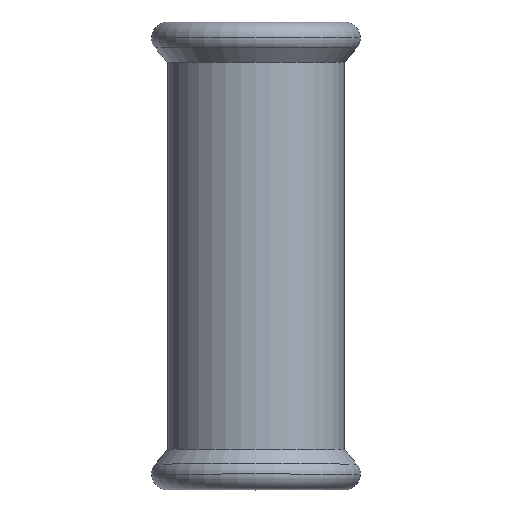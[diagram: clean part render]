
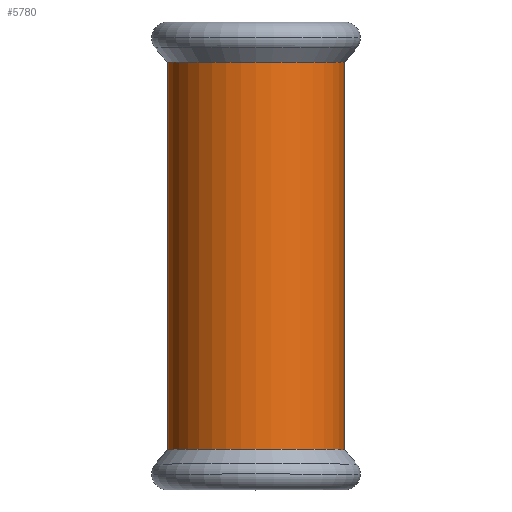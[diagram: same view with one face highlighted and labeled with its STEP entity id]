
A CAD part, top view. The second image highlights one B-rep face of the part: STEP entity #5780.
In plain terms, the highlighted cylindrical face has radius 22.7 mm (diameter 45.4 mm), a partial arc.
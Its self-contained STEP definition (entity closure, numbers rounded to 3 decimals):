
#2890=CARTESIAN_POINT('',(-27.454,219.789,0.));
#2900=VERTEX_POINT('',#2890);
#3080=CARTESIAN_POINT('',(-72.854,219.789,
0.));
#3090=VERTEX_POINT('',#3080);
#3120=CARTESIAN_POINT('',(-50.154,219.789,0.));
#3130=DIRECTION('',(0.,1.,0.));
#3140=DIRECTION('',(-1.,0.,0.));
#3150=AXIS2_PLACEMENT_3D('',#3120,#3130,#3140);
#3160=CIRCLE('',#3150,22.7);
#3220=CARTESIAN_POINT('',(-50.154,209.387,0.));
#3230=DIRECTION('',(0.,-1.,0.));
#3240=DIRECTION('',(-1.,0.,0.));
#3250=AXIS2_PLACEMENT_3D('',#3220,#3230,#3240);
#3260=CYLINDRICAL_SURFACE('',#3250,22.7);
#3270=CARTESIAN_POINT('',(-27.454,209.387,
0.));
#3280=DIRECTION('',(0.,-1.,0.));
#3290=VECTOR('',#3280,1.);
#3300=LINE('',#3270,#3290);
#3310=CARTESIAN_POINT('',(-27.454,120.472,
0.));
#3320=VERTEX_POINT('',#3310);
#3330=EDGE_CURVE('',#2900,#3320,#3300,.T.);
#3360=CARTESIAN_POINT('',(-72.854,209.387,0.));
#3370=DIRECTION('',(0.,-1.,0.));
#3380=VECTOR('',#3370,1.);
#3390=LINE('',#3360,#3380);
#3400=CARTESIAN_POINT('',(-72.854,120.472,0.));
#3410=VERTEX_POINT('',#3400);
#3420=EDGE_CURVE('',#3090,#3410,#3390,.T.);
#3440=CARTESIAN_POINT('',(-50.154,120.472,0.));
#3450=DIRECTION('',(0.,-1.,0.));
#3460=DIRECTION('',(1.,0.,0.));
#3470=AXIS2_PLACEMENT_3D('',#3440,#3450,#3460);
#3480=CIRCLE('',#3470,22.7);
#5700=EDGE_CURVE('',#3090,#2900,#3160,.T.);
#5710=ORIENTED_EDGE('',*,*,#5700,.F.);
#5720=ORIENTED_EDGE('',*,*,#3330,.F.);
#5730=EDGE_CURVE('',#3320,#3410,#3480,.T.);
#5740=ORIENTED_EDGE('',*,*,#5730,.F.);
#5750=ORIENTED_EDGE('',*,*,#3420,.T.);
#5760=EDGE_LOOP('',(#5750,#5740,#5720,#5710));
#5770=FACE_OUTER_BOUND('',#5760,.T.);
#5780=ADVANCED_FACE('',(#5770),#3260,.T.);
